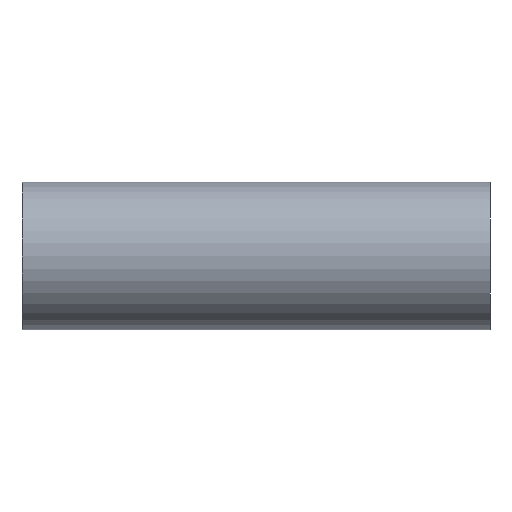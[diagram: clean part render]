
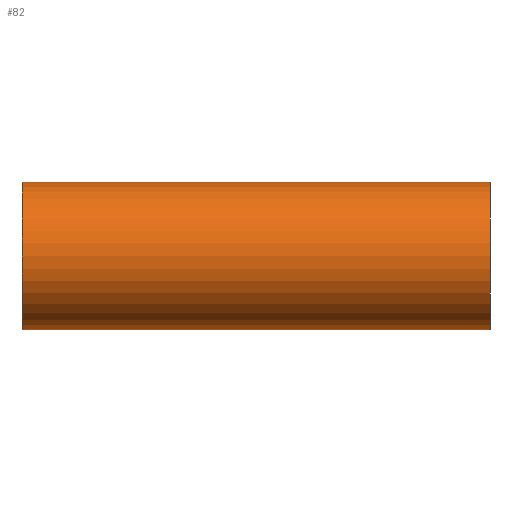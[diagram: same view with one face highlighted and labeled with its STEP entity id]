
A CAD part, front view. The second image highlights one B-rep face of the part: STEP entity #82.
In plain terms, the highlighted cylindrical face has radius 19.05 mm (diameter 38.1 mm), a partial arc.
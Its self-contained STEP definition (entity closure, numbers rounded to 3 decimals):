
#45 = ORIENTED_EDGE ( 'NONE', *, *, #857, .T. ) ;
#54 = CARTESIAN_POINT ( 'NONE',  ( -60.3, 0., 0. ) ) ;
#63 = VERTEX_POINT ( 'NONE', #1111 ) ;
#82 = ADVANCED_FACE ( 'NONE', ( #786 ), #635, .T. ) ;
#93 = EDGE_CURVE ( 'NONE', #152, #512, #672, .T. ) ;
#139 = AXIS2_PLACEMENT_3D ( 'NONE', #520, #541, #581 ) ;
#152 = VERTEX_POINT ( 'NONE', #1150 ) ;
#185 = ORIENTED_EDGE ( 'NONE', *, *, #1043, .T. ) ;
#305 = VERTEX_POINT ( 'NONE', #756 ) ;
#315 = DIRECTION ( 'NONE',  ( 0., 0., -1. ) ) ;
#463 = CIRCLE ( 'NONE', #139, 19.05 ) ;
#493 = DIRECTION ( 'NONE',  ( 0., 0., -1. ) ) ;
#497 = DIRECTION ( 'NONE',  ( -1., 0., 0. ) ) ;
#503 = CARTESIAN_POINT ( 'NONE',  ( 60.3, 0., 0. ) ) ;
#512 = VERTEX_POINT ( 'NONE', #1143 ) ;
#513 = DIRECTION ( 'NONE',  ( 1., 0., 0. ) ) ;
#520 = CARTESIAN_POINT ( 'NONE',  ( -60.3, 0., 0. ) ) ;
#541 = DIRECTION ( 'NONE',  ( 1., 0., 0. ) ) ;
#581 = DIRECTION ( 'NONE',  ( 0., 0., -1. ) ) ;
#588 = AXIS2_PLACEMENT_3D ( 'NONE', #54, #513, #315 ) ;
#633 = VECTOR ( 'NONE', #1202, 1000. ) ;
#635 = CYLINDRICAL_SURFACE ( 'NONE', #588, 19.05 ) ;
#672 = LINE ( 'NONE', #1002, #633 ) ;
#686 = CARTESIAN_POINT ( 'NONE',  ( -60.3, 0., -19.05 ) ) ;
#691 = DIRECTION ( 'NONE',  ( 1., 0., 0. ) ) ;
#756 = CARTESIAN_POINT ( 'NONE',  ( -60.3, 0., -19.05 ) ) ;
#786 = FACE_OUTER_BOUND ( 'NONE', #853, .T. ) ;
#823 = AXIS2_PLACEMENT_3D ( 'NONE', #503, #497, #493 ) ;
#833 = EDGE_CURVE ( 'NONE', #152, #305, #463, .T. ) ;
#853 = EDGE_LOOP ( 'NONE', ( #1158, #1205, #45, #185 ) ) ;
#857 = EDGE_CURVE ( 'NONE', #305, #63, #1029, .T. ) ;
#1002 = CARTESIAN_POINT ( 'NONE',  ( -60.3, 0., 19.05 ) ) ;
#1029 = LINE ( 'NONE', #686, #1262 ) ;
#1043 = EDGE_CURVE ( 'NONE', #63, #512, #1104, .T. ) ;
#1104 = CIRCLE ( 'NONE', #823, 19.05 ) ;
#1111 = CARTESIAN_POINT ( 'NONE',  ( 60.3, 0., -19.05 ) ) ;
#1143 = CARTESIAN_POINT ( 'NONE',  ( 60.3, 0., 19.05 ) ) ;
#1150 = CARTESIAN_POINT ( 'NONE',  ( -60.3, 0., 19.05 ) ) ;
#1158 = ORIENTED_EDGE ( 'NONE', *, *, #93, .F. ) ;
#1202 = DIRECTION ( 'NONE',  ( 1., 0., 0. ) ) ;
#1205 = ORIENTED_EDGE ( 'NONE', *, *, #833, .T. ) ;
#1262 = VECTOR ( 'NONE', #691, 1000. ) ;
